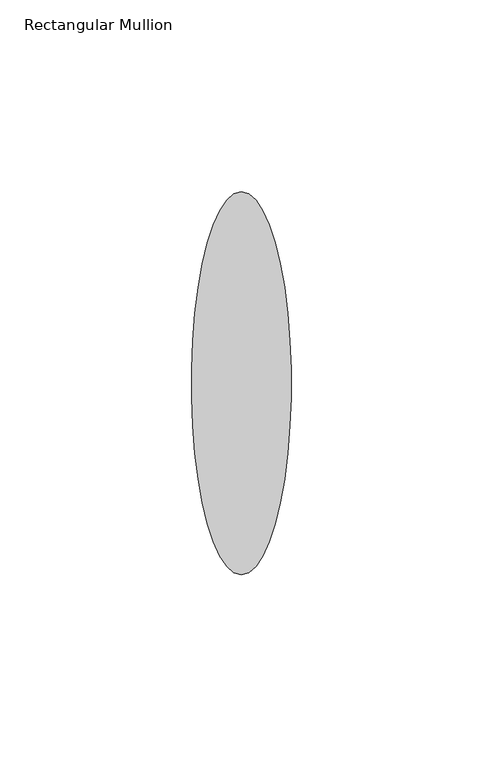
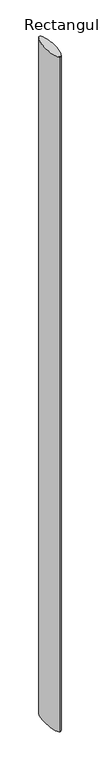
"""IFC4 building model written with IfcOpenShell, lengths in millimetres: member geometry, Rectangular Mullion : RSen_21_CWM_blade - 100 ellips - 0°_gen_duco projects."""

from ifc_helpers import new_model, si_unit, point, frame, origin, place, context, project, spatial, ellipse_curve, trimmed, source, transform, mapped, element, save
from ifc_brep_helpers import plane_surface, extruded_surface, advanced_brep


def rectangular_mullion_31e9810d(model_context):
    return source(origin(), model_context, "Body", "AdvancedBrep", [
        advanced_brep(
        [(0.0, 10.0, 0.0), (0.0, 110.0, 0.0), (0.0, 10.0, -2000.0), (0.0, 110.0, -2000.0)],
        [
            (0, 1, ellipse_curve(frame((0.0, 60.0, 0.0), z_axis=(0.0, 0.0, 1.0), x_axis=(0.0, 1.0, 0.0)), 50.0, 13.0)),
            (1, 0, ellipse_curve(frame((0.0, 60.0, 0.0), z_axis=(0.0, 0.0, 1.0), x_axis=(0.0, 1.0, 0.0)), 50.0, 13.0)),
            (2, 3, ellipse_curve(frame((0.0, 60.0, -2000.0), z_axis=(0.0, 0.0, -1.0), x_axis=(0.0, 1.0, 0.0)), 50.0, 13.0)),
            (3, 2, ellipse_curve(frame((0.0, 60.0, -2000.0), z_axis=(0.0, 0.0, -1.0), x_axis=(0.0, 1.0, 0.0)), 50.0, 13.0)),
            (0, 2),
            (3, 1),
        ],
        [
            plane_surface(frame((0.0, -110.0, 0.0), z_axis=(0.0, 0.0, 1.0), x_axis=(-1.0, 0.0, 0.0))),
            plane_surface(frame((0.0, -110.0, -2000.0), z_axis=(0.0, 0.0, -1.0), x_axis=(-1.0, 0.0, 0.0))),
            extruded_surface(trimmed(ellipse_curve(frame((0.0, 60.0, -2000.0), z_axis=(0.0, 0.0, 1.0), x_axis=(0.0, 1.0, 0.0)), 50.0, 13.0), [point((0.0, 10.0, -2000.0))], [point((0.0, 110.0, -2000.0))], True, "CARTESIAN"), (0.0, 0.0, 2000.0), 2000.0),
            extruded_surface(trimmed(ellipse_curve(frame((0.0, 60.0, -2000.0), z_axis=(0.0, 0.0, 1.0), x_axis=(0.0, 1.0, 0.0)), 50.0, 13.0), [point((0.0, 110.0, -2000.0))], [point((0.0, 10.0, -2000.0))], True, "CARTESIAN"), (0.0, 0.0, 2000.0), 2000.0),
        ],
        [
            (0, [[1, 2]]),
            (1, [[3, 4]]),
            (2, [[-1, 5, -4, 6]]),
            (3, [[-2, -6, -3, -5]]),
        ],
    ),
    ])


if __name__ == "__main__":
    model = new_model("IFC4")
    model_context = context("Model", 3, world=origin())
    ifc_project = project(units=[si_unit("LENGTHUNIT", "METRE", prefix="MILLI")], contexts=[model_context])
    site = spatial("IfcSite", under=ifc_project)
    building = spatial("IfcBuilding", under=site)
    placement = place(None, origin())
    rectangular_mullion_shape = rectangular_mullion_31e9810d(model_context)
    element("IfcMember", 1, ObjectType="Rectangular Mullion : RSen_21_CWM_blade - 100 ellips - 0°_gen_duco projects", at=placement, inside=building, context=model_context, shape_type="MappedRepresentation", body=[
        mapped(rectangular_mullion_shape, transform((0.0, 0.0, 0.0), x_axis=(1.0, 0.0, 0.0), y_axis=(0.0, 1.0, 0.0), z_axis=(0.0, 0.0, 1.0))),
    ])
    save(model, "model.ifc")
